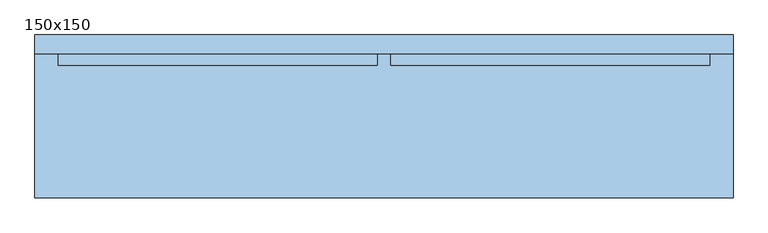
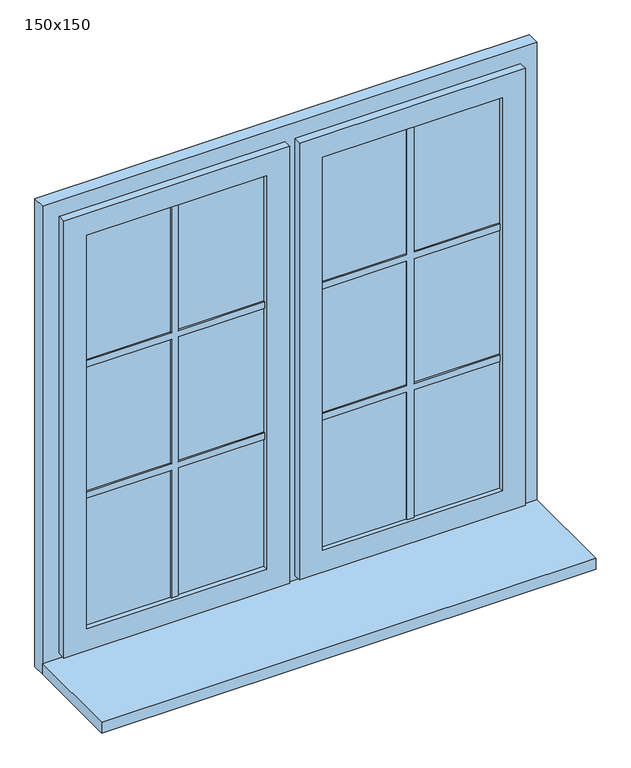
"""IFC4 building model written with IfcOpenShell, lengths in millimetres: window geometry, OKNO_2X_W_SZ : 150x150."""

import ifcopenshell
import ifcopenshell.guid

model = None  # the IFC model being written
_history = None  # IfcOwnerHistory: only IFC2X3 demands one
_inside = {}  # id of a spatial element -> (the spatial element, [elements in it])
_under = {}  # id of a project, library or spatial element -> (it, [spatial elements below it])
_declared = {}  # id of a project -> (the project, [libraries it declares])
_typed = {}  # id of a type object -> (the type object, [elements of that type])
_made_of = {}  # id of a material, layer set ... -> (it, [elements and type objects made of it])


def new_model(schema):
    """Start an empty IFC model of exactly this schema.

    Asked for "IFC4X3", IfcOpenShell would pick the latest addendum, in which some entities
    have other attributes; the version numbers below select the first issue.
    IFC2X3 requires an IfcOwnerHistory on every rooted entity: one is made here for all.
    """
    global model, _history
    if schema == "IFC4X3":
        model = ifcopenshell.file(schema_version=(4, 3, 0, 0))
    else:
        model = ifcopenshell.file(schema=schema)
    _inside.clear()
    _under.clear()
    _declared.clear()
    _typed.clear()
    _made_of.clear()
    _history = None
    if model.schema == "IFC2X3":
        org = make("IfcOrganization", Name="unknown")
        user = make(
            "IfcPersonAndOrganization",
            ThePerson=make("IfcPerson", FamilyName="unknown"),
            TheOrganization=org,
        )
        app = make(
            "IfcApplication",
            ApplicationDeveloper=org,
            Version="unknown",
            ApplicationFullName="unknown",
            ApplicationIdentifier="unknown",
        )
        _history = make(
            "IfcOwnerHistory",
            OwningUser=user,
            OwningApplication=app,
            ChangeAction="ADDED",
            CreationDate=0,
        )
    return model


def make(cls, **values):
    """One entity of the class cls with the attributes given. An attribute that is None is left unset."""
    return model.create_entity(
        cls, **{name: value for name, value in values.items() if value is not None}
    )


def rooted(cls, **values):
    """An entity with a GlobalId (a new one), such as an element, a storey or a relation."""
    return make(cls, GlobalId=ifcopenshell.guid.new(), OwnerHistory=_history, **values)


def si_unit(unit_type, name, prefix=None):
    """IfcSIUnit, for example si_unit("LENGTHUNIT", "METRE", prefix="MILLI")."""
    return make("IfcSIUnit", UnitType=unit_type, Prefix=prefix, Name=name)


def assignment(units):
    """IfcUnitAssignment: the units of a project."""
    return None if units is None else make("IfcUnitAssignment", Units=units)


def point(xyz):
    """IfcCartesianPoint."""
    return None if xyz is None else make("IfcCartesianPoint", Coordinates=xyz)


def direction(xyz):
    """IfcDirection."""
    return None if xyz is None else make("IfcDirection", DirectionRatios=xyz)


def frame(location, z_axis=None, x_axis=None):
    """IfcAxis2Placement3D, a coordinate frame: its origin and axes. An axis left out is left unset."""
    return make(
        "IfcAxis2Placement3D",
        Location=point(location),
        Axis=direction(z_axis),
        RefDirection=direction(x_axis),
    )


def origin():
    """The frame at (0, 0, 0) with its axes left unset."""
    return frame((0.0, 0.0, 0.0))


def place(relative_to, where):
    """IfcLocalPlacement: puts the frame where relative to a parent placement (None: the world)."""
    return make(
        "IfcLocalPlacement", PlacementRelTo=relative_to, RelativePlacement=where
    )


def context(
    kind, dimensions, precision=None, world=None, true_north=None, identifier=None
):
    """IfcGeometricRepresentationContext, for example the 3D "Model" context."""
    return make(
        "IfcGeometricRepresentationContext",
        ContextIdentifier=identifier,
        ContextType=kind,
        CoordinateSpaceDimension=dimensions,
        Precision=precision,
        WorldCoordinateSystem=world,
        TrueNorth=true_north,
    )


def project(units=None, contexts=None):
    """IfcProject with its units and contexts."""
    return rooted(
        "IfcProject",
        Name="project",
        RepresentationContexts=contexts,
        UnitsInContext=assignment(units),
    )


def spatial(cls, under=None, at=None, **own):
    """A site, building, storey or space (cls), placed at a placement, below another one or the project."""
    s = rooted(cls, ObjectPlacement=at, **own)
    if under is not None:
        _under.setdefault(under.id(), (under, []))[1].append(s)
    return s


def polyline(points):
    """IfcPolyline through the points."""
    return make("IfcPolyline", Points=[point(p) for p in points])


def outline(outer, holes=None, kind="AREA"):
    """IfcArbitraryClosedProfileDef: a profile drawn as a closed curve; with holes, ...WithVoids."""
    if holes is None:
        return make("IfcArbitraryClosedProfileDef", ProfileType=kind, OuterCurve=outer)
    return make(
        "IfcArbitraryProfileDefWithVoids",
        ProfileType=kind,
        OuterCurve=outer,
        InnerCurves=holes,
    )


def extrude(swept, where, along, depth):
    """IfcExtrudedAreaSolid: the profile swept, set in the frame where, extruded along a direction by depth."""
    return make(
        "IfcExtrudedAreaSolid",
        SweptArea=swept,
        Position=where,
        ExtrudedDirection=direction(along),
        Depth=depth,
    )


def faces_of(points, faces, orient=None, outer=None):
    """IfcFace entities. A face is a list of loops; a loop is a list of indices into points, from 0.

    orient and outer hold one flag for each loop. By default every Orientation is true, the
    first loop of a face is its IfcFaceOuterBound and the others are IfcFaceBound.
    """
    made = []
    for i, loops in enumerate(faces):
        bounds = []
        for j, loop in enumerate(loops):
            is_outer = j == 0 if outer is None else outer[i][j]
            bounds.append(
                make(
                    "IfcFaceOuterBound" if is_outer else "IfcFaceBound",
                    Bound=make("IfcPolyLoop", Polygon=[points[k] for k in loop]),
                    Orientation=True if orient is None else orient[i][j],
                )
            )
        made.append(make("IfcFace", Bounds=bounds))
    return made


def faceted_brep(points, faces, orient=None, outer=None, voids=None):
    """IfcFacetedBrep: a solid bounded by flat faces; with voids (closed shells), ...WithVoids."""
    shared = [point(p) for p in points]
    hull = make("IfcClosedShell", CfsFaces=faces_of(shared, faces, orient, outer))
    if voids is None:
        return make("IfcFacetedBrep", Outer=hull)
    return make(
        "IfcFacetedBrepWithVoids",
        Outer=hull,
        Voids=[
            make(cls, CfsFaces=faces_of(shared, fs, o, b)) for cls, fs, o, b in voids
        ],
    )


def shape(context_of_items, identifier, shape_type, items):
    """IfcShapeRepresentation: the items that make up one representation, for example the "Body"."""
    return make(
        "IfcShapeRepresentation",
        ContextOfItems=context_of_items,
        RepresentationIdentifier=identifier,
        RepresentationType=shape_type,
        Items=items,
    )


def source(mapping_origin, context_of_items, identifier, shape_type, items):
    """IfcRepresentationMap: a shape defined once, which mapped items show again and again."""
    return make(
        "IfcRepresentationMap",
        MappingOrigin=mapping_origin,
        MappedRepresentation=shape(context_of_items, identifier, shape_type, items),
    )


def transform(
    local_origin,
    x_axis=None,
    y_axis=None,
    z_axis=None,
    scale=None,
    scale2=None,
    scale3=None,
    uniform=True,
):
    """IfcCartesianTransformationOperator3D, or its non-uniform kind. x_axis, y_axis, z_axis: its Axis1, 2, 3."""
    if uniform:
        return make(
            "IfcCartesianTransformationOperator3D",
            Axis1=direction(x_axis),
            Axis2=direction(y_axis),
            LocalOrigin=point(local_origin),
            Scale=scale,
            Axis3=direction(z_axis),
        )
    return make(
        "IfcCartesianTransformationOperator3DnonUniform",
        Axis1=direction(x_axis),
        Axis2=direction(y_axis),
        LocalOrigin=point(local_origin),
        Scale=scale,
        Axis3=direction(z_axis),
        Scale2=scale2,
        Scale3=scale3,
    )


def mapped(mapping_source, mapping_target):
    """IfcMappedItem: shows the shape of a source again, moved by a transform."""
    return make(
        "IfcMappedItem", MappingSource=mapping_source, MappingTarget=mapping_target
    )


def made_of(thing, what):
    """Note that an element or type object is made of a material, layer set ...; save() writes the relation."""
    if what is not None:
        _made_of.setdefault(what.id(), (what, []))[1].append(thing)
    return thing


def element(
    cls,
    number,
    at=None,
    inside=None,
    cuts=None,
    type_object=None,
    material=None,
    context=None,
    identifier="Body",
    shape_type=None,
    held_by="IfcProductDefinitionShape",
    body=None,
    shapes=None,
    **own,
):
    """One element of the class cls, such as IfcWall. Its Tag is "e" and its number.

    at: its placement. inside: the storey or other place that contains it. cuts: it is an
    opening in that element (IfcRelVoidsElement). A single representation is given by context,
    identifier, shape_type and body (its items); several are given by shapes. held_by: the class
    of the entity that holds the representations. save() writes the other relations.
    """
    e = rooted(cls, Tag="e%d" % number, ObjectPlacement=at, **own)
    if body is not None:
        shapes = [shape(context, identifier, shape_type, body)]
    if shapes is not None:
        e.Representation = make(held_by, Representations=shapes)
    if inside is not None:
        _inside.setdefault(inside.id(), (inside, []))[1].append(e)
    if cuts is not None:
        rooted(
            "IfcRelVoidsElement", RelatingBuildingElement=cuts, RelatedOpeningElement=e
        )
    if type_object is not None:
        _typed.setdefault(type_object.id(), (type_object, []))[1].append(e)
    return made_of(e, material)


def aggregate(whole, parts):
    """IfcRelAggregates: a whole, such as a stair, and the parts it consists of."""
    return rooted("IfcRelAggregates", RelatingObject=whole, RelatedObjects=parts)


def save(model, path):
    """Write the relations noted so far, then the file.

    IfcRelAggregates (storeys below a building ...), IfcRelContainedInSpatialStructure (elements
    in a storey), IfcRelDefinesByType, IfcRelAssociatesMaterial and IfcRelDeclares: one each for
    every whole, place, type object, material and project.
    """
    for whole, parts in _under.values():
        aggregate(whole, parts)
    for where, things in _inside.values():
        rooted(
            "IfcRelContainedInSpatialStructure",
            RelatedElements=things,
            RelatingStructure=where,
        )
    for kind, things in _typed.values():
        rooted("IfcRelDefinesByType", RelatedObjects=things, RelatingType=kind)
    for what, things in _made_of.values():
        rooted("IfcRelAssociatesMaterial", RelatedObjects=things, RelatingMaterial=what)
    for by, libraries in _declared.values():
        rooted("IfcRelDeclares", RelatingContext=by, RelatedDefinitions=libraries)
    model.write(path)


def window_150x150_51b7f79a(model_context):
    return source(origin(), model_context, "Body", "SolidModel", [
        extrude(outline(polyline([(750.0, 50.0), (750.0, -260.0), (-750.0, -260.0), (-750.0, 50.0), (750.0, 50.0)])), frame((0.0, 0.0, 850.0), z_axis=(0.0, 0.0, 1.0), x_axis=(1.0, 0.0, 0.0)), (0.0, 0.0, 1.0), 35.0),
        extrude(outline(polyline([(2350.0, 750.0), (2350.0, -750.0), (850.0, -750.0), (850.0, 750.0), (2350.0, 750.0)]), holes=[polyline([(2280.0, 680.0), (920.0, 680.0), (920.0, 35.0), (2280.0, 35.0), (2280.0, 680.0)]), polyline([(2280.0, -35.0), (920.0, -35.0), (920.0, -680.0), (2280.0, -680.0), (2280.0, -35.0)])]), frame((0.0, 50.0, 0.0), z_axis=(0.0, 1.0, 0.0), x_axis=(0.0, 0.0, 1.0)), (0.0, 0.0, 1.0), 40.0),
        extrude(outline(polyline([(1820.0, -367.5), (1820.0, -630.0), (1800.0, -630.0), (1800.0, -367.5), (1400.0, -367.5), (1400.0, -630.0), (1380.0, -630.0), (1380.0, -367.5), (970.0, -367.5), (970.0, -347.5), (1380.0, -347.5), (1380.0, -85.0), (1400.0, -85.0), (1400.0, -347.5), (1800.0, -347.5), (1800.0, -85.0), (1820.0, -85.0), (1820.0, -347.5), (2230.0, -347.5), (2230.0, -367.5), (1820.0, -367.5)])), frame((0.0, 35.0, 0.0), z_axis=(0.0, 1.0, 0.0), x_axis=(0.0, 0.0, 1.0)), (0.0, 0.0, 1.0), 20.0),
        extrude(outline(polyline([(1380.0, 367.5), (1380.0, 630.0), (1400.0, 630.0), (1400.0, 367.5), (1800.0, 367.5), (1800.0, 630.0), (1820.0, 630.0), (1820.0, 367.5), (2230.0, 367.5), (2230.0, 347.5), (1820.0, 347.5), (1820.0, 85.0), (1800.0, 85.0), (1800.0, 347.5), (1400.0, 347.5), (1400.0, 85.0), (1380.0, 85.0), (1380.0, 347.5), (970.0, 347.5), (970.0, 367.5), (1380.0, 367.5)])), frame((0.0, 35.0, 0.0), z_axis=(0.0, 1.0, 0.0), x_axis=(0.0, 0.0, 1.0)), (0.0, 0.0, 1.0), 20.0),
        extrude(outline(polyline([(-85.0, 50.0), (-85.0, 40.0), (-630.0, 40.0), (-630.0, 50.0), (-85.0, 50.0)])), frame((0.0, 0.0, 970.0), z_axis=(0.0, 0.0, 1.0), x_axis=(1.0, 0.0, 0.0)), (0.0, 0.0, 1.0), 1260.0),
        extrude(outline(polyline([(630.0, 50.0), (630.0, 40.0), (85.0, 40.0), (85.0, 50.0), (630.0, 50.0)])), frame((0.0, 0.0, 970.0), z_axis=(0.0, 0.0, 1.0), x_axis=(1.0, 0.0, 0.0)), (0.0, 0.0, 1.0), 1260.0),
        faceted_brep([(-85.0, 25.0, 2230.0), (-85.0, 65.0, 2230.0), (-85.0, 65.0, 970.0), (-85.0, 25.0, 970.0), (-35.0, 65.0, 2280.0), (-35.0, 65.0, 920.0), (-680.0, 65.0, 920.0), (-680.0, 65.0, 2280.0), (-630.0, 65.0, 2230.0), (-630.0, 65.0, 970.0), (-630.0, 25.0, 970.0), (-700.0, 25.0, 2300.0), (-700.0, 25.0, 900.0), (-15.0, 25.0, 900.0), (-15.0, 25.0, 2300.0), (-630.0, 25.0, 2230.0), (-15.0, 50.0, 2300.0), (-15.0, 50.0, 900.0), (-700.0, 50.0, 900.0), (-700.0, 50.0, 2300.0), (-680.0, 50.0, 2280.0), (-680.0, 50.0, 920.0), (-35.0, 50.0, 920.0), (-35.0, 50.0, 2280.0)], [[[0, 1, 2, 3]], [[4, 5, 6, 7], [8, 9, 2, 1]], [[3, 2, 9, 10]], [[11, 12, 13, 14], [0, 3, 10, 15]], [[16, 14, 13, 17]], [[17, 13, 12, 18]], [[16, 17, 18, 19], [20, 21, 22, 23]], [[4, 23, 22, 5]], [[5, 22, 21, 6]], [[10, 9, 8, 15]], [[18, 12, 11, 19]], [[6, 21, 20, 7]], [[15, 8, 1, 0]], [[19, 11, 14, 16]], [[7, 20, 23, 4]]]),
        faceted_brep([(630.0, 25.0, 2230.0), (630.0, 65.0, 2230.0), (630.0, 65.0, 970.0), (630.0, 25.0, 970.0), (85.0, 65.0, 970.0), (85.0, 25.0, 970.0), (35.0, 65.0, 920.0), (35.0, 65.0, 2280.0), (680.0, 65.0, 2280.0), (680.0, 65.0, 920.0), (85.0, 65.0, 2230.0), (85.0, 25.0, 2230.0), (700.0, 25.0, 900.0), (700.0, 25.0, 2300.0), (15.0, 25.0, 2300.0), (15.0, 25.0, 900.0), (700.0, 50.0, 2300.0), (700.0, 50.0, 900.0), (15.0, 50.0, 900.0), (15.0, 50.0, 2300.0), (680.0, 50.0, 920.0), (680.0, 50.0, 2280.0), (35.0, 50.0, 2280.0), (35.0, 50.0, 920.0)], [[[0, 1, 2, 3]], [[3, 2, 4, 5]], [[6, 7, 8, 9], [2, 1, 10, 4]], [[5, 4, 10, 11]], [[12, 13, 14, 15], [5, 11, 0, 3]], [[16, 13, 12, 17]], [[17, 12, 15, 18]], [[18, 15, 14, 19]], [[18, 19, 16, 17], [20, 21, 22, 23]], [[8, 21, 20, 9]], [[9, 20, 23, 6]], [[6, 23, 22, 7]], [[11, 10, 1, 0]], [[19, 14, 13, 16]], [[7, 22, 21, 8]]]),
    ])


if __name__ == "__main__":
    model = new_model("IFC4")
    model_context = context("Model", 3, world=origin())
    ifc_project = project(units=[si_unit("LENGTHUNIT", "METRE", prefix="MILLI")], contexts=[model_context])
    site = spatial("IfcSite", under=ifc_project)
    building = spatial("IfcBuilding", under=site)
    placement = place(None, origin())
    window_150x150_shape = window_150x150_51b7f79a(model_context)
    element("IfcWindow", 1, ObjectType="OKNO_2X_W_SZ : 150x150", at=placement, inside=building, context=model_context, shape_type="MappedRepresentation", body=[
        mapped(window_150x150_shape, transform((0.0, 0.0, 0.0), x_axis=(1.0, 0.0, 0.0), y_axis=(0.0, 1.0, 0.0), z_axis=(0.0, 0.0, 1.0))),
    ])
    save(model, "model.ifc")
